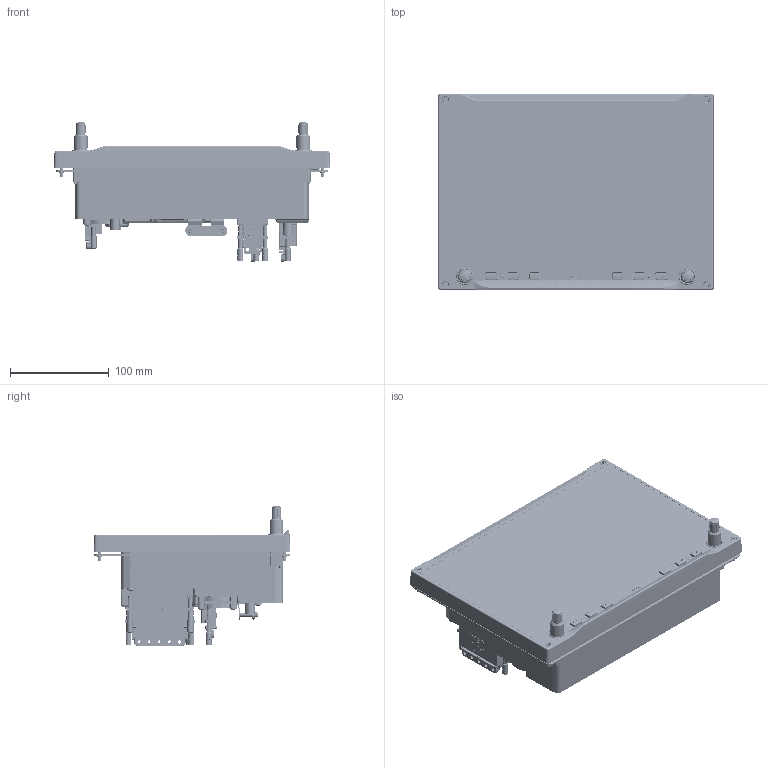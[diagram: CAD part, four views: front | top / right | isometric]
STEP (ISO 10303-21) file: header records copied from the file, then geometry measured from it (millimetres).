
FILE_DESCRIPTION (( 'STEP AP203' ), '1' );
FILE_NAME ('GDU116_011-05799-20_H[115-01725-01]_C[011-01855-(00,03,04)_011-5801-00]_04.STEP', '2026-06-01T18:32:39', ( '' ), ( '' ), 'SwSTEP 2.0', 'SolidWorks 2023', '' );
FILE_SCHEMA (( 'CONFIG_CONTROL_DESIGN' ));
Products named in the file (1): GDU116_011-05799-20_H[115-01725-01]_C[011-01855-(00,03,04)_011-5801-00]_04
Bounding box: 279.4 x 198.9 x 141.26 mm (x, y, z)
Volume: 3017214.6 mm3; surface area: 274290.6 mm2
Topology: 7 solids, 111 shells, 10869 faces, 27313 edges, 17477 vertices
Faces by surface type: plane 5060, cylinder 2684, bspline 2025, cone 592, torus 296, sphere 212
Entity records: 450595 total; most frequent: CARTESIAN_POINT 207919, ORIENTED_EDGE 54062, DIRECTION 43827, EDGE_CURVE 27031, VERTEX_POINT 17368, AXIS2_PLACEMENT_3D 15218, LINE 13391, VECTOR 13391
